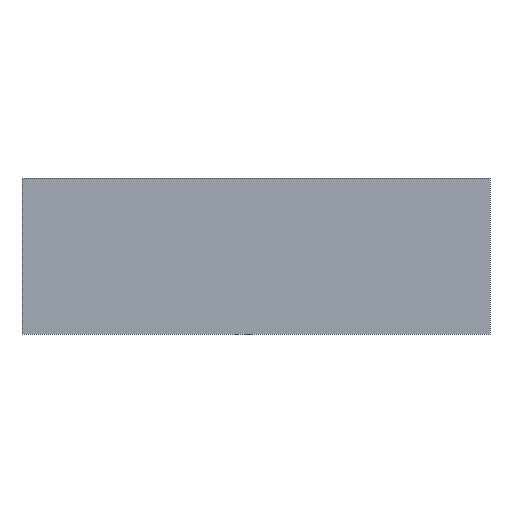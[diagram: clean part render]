
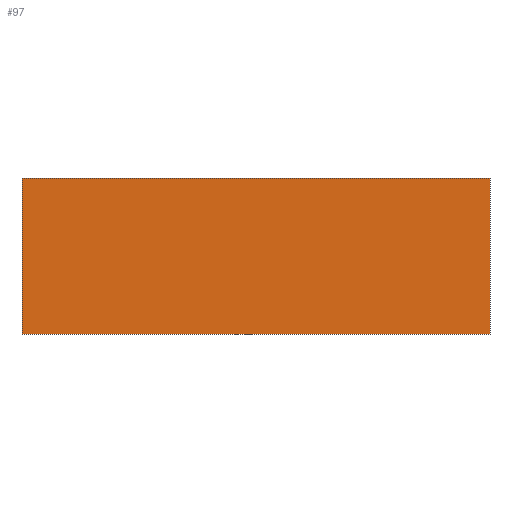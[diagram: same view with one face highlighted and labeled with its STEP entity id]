
A CAD part, front view. The second image highlights one B-rep face of the part: STEP entity #97.
In plain terms, the highlighted planar face has unit normal (0, -1, 0).
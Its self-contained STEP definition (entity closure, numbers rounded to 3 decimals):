
#21 = EDGE_CURVE('',#22,#24,#26,.T.);
#22 = VERTEX_POINT('',#23);
#23 = CARTESIAN_POINT('',(-75.,-7.,-25.));
#24 = VERTEX_POINT('',#25);
#25 = CARTESIAN_POINT('',(-75.,-7.,25.));
#26 = LINE('',#27,#28);
#27 = CARTESIAN_POINT('',(-75.,-7.,-25.));
#28 = VECTOR('',#29,1.);
#29 = DIRECTION('',(0.,0.,1.));
#61 = EDGE_CURVE('',#62,#64,#66,.T.);
#62 = VERTEX_POINT('',#63);
#63 = CARTESIAN_POINT('',(75.,-7.,-25.));
#64 = VERTEX_POINT('',#65);
#65 = CARTESIAN_POINT('',(75.,-7.,25.));
#66 = LINE('',#67,#68);
#67 = CARTESIAN_POINT('',(75.,-7.,-25.));
#68 = VECTOR('',#69,1.);
#69 = DIRECTION('',(0.,0.,1.));
#97 = ADVANCED_FACE('',(#98),#114,.F.);
#98 = FACE_BOUND('',#99,.F.);
#99 = EDGE_LOOP('',(#100,#106,#107,#113));
#100 = ORIENTED_EDGE('',*,*,#101,.F.);
#101 = EDGE_CURVE('',#22,#62,#102,.T.);
#102 = LINE('',#103,#104);
#103 = CARTESIAN_POINT('',(-75.,-7.,-25.));
#104 = VECTOR('',#105,1.);
#105 = DIRECTION('',(1.,0.,0.));
#106 = ORIENTED_EDGE('',*,*,#21,.T.);
#107 = ORIENTED_EDGE('',*,*,#108,.T.);
#108 = EDGE_CURVE('',#24,#64,#109,.T.);
#109 = LINE('',#110,#111);
#110 = CARTESIAN_POINT('',(-75.,-7.,25.));
#111 = VECTOR('',#112,1.);
#112 = DIRECTION('',(1.,0.,0.));
#113 = ORIENTED_EDGE('',*,*,#61,.F.);
#114 = PLANE('',#115);
#115 = AXIS2_PLACEMENT_3D('',#116,#117,#118);
#116 = CARTESIAN_POINT('',(-75.,-7.,-25.));
#117 = DIRECTION('',(0.,1.,0.));
#118 = DIRECTION('',(0.,0.,1.));
